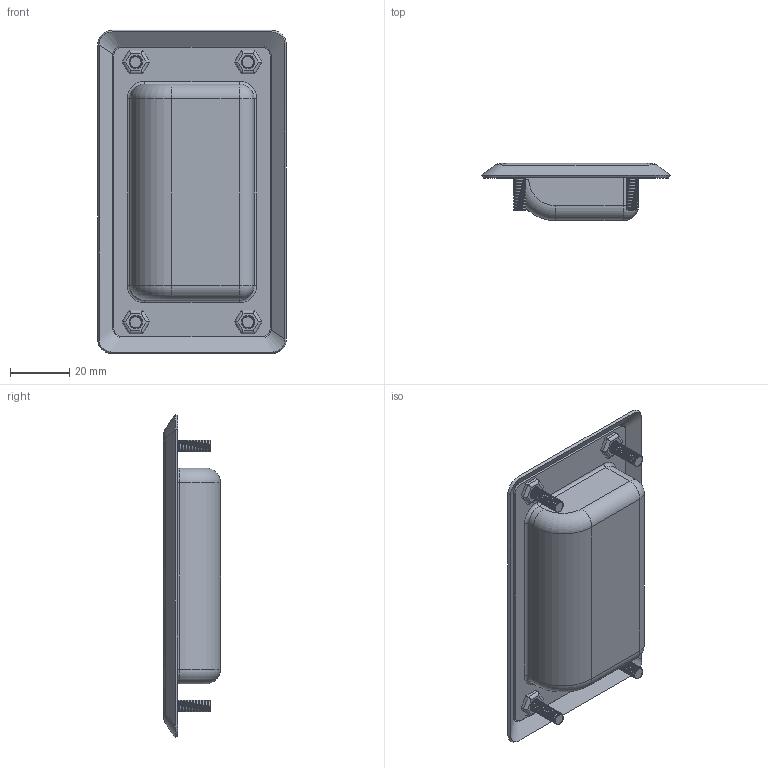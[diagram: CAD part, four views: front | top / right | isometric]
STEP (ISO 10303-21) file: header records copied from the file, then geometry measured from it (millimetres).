
FILE_DESCRIPTION (( 'STEP AP203' ), '1' );
FILE_NAME ('XG01-035-109A.STEP', '2025-07-25T07:29:45', ( '微软用户' ), ( '微软中国' ), 'SwSTEP 2.0', 'SolidWorks 2024', '' );
FILE_SCHEMA (( 'CONFIG_CONTROL_DESIGN' ));
Length unit declared in the file: millimetre
Products named in the file (1): XG01-035-109A
Bounding box: 64 x 19.31 x 109.5 mm (x, y, z)
Volume: 14628.2 mm3; surface area: 25183.9 mm2
Topology: 1 solids, 1 shells, 320 faces, 836 edges, 532 vertices
Faces by surface type: cylinder 192, plane 93, bspline 23, torus 8, sphere 4
Entity records: 29686 total; most frequent: CARTESIAN_POINT 22721, ORIENTED_EDGE 1664, DIRECTION 1198, EDGE_CURVE 832, VERTEX_POINT 532, AXIS2_PLACEMENT_3D 407, LINE 384, VECTOR 384
